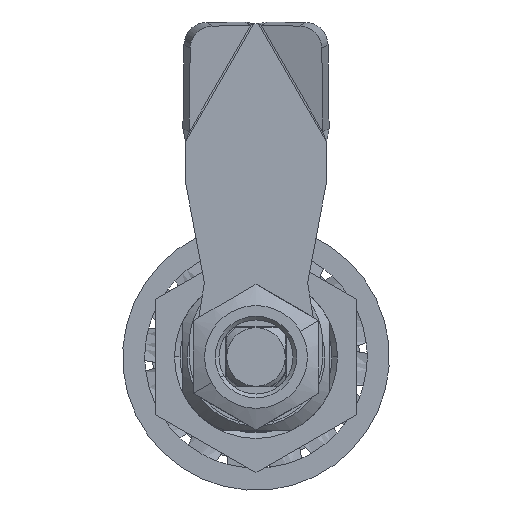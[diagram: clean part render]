
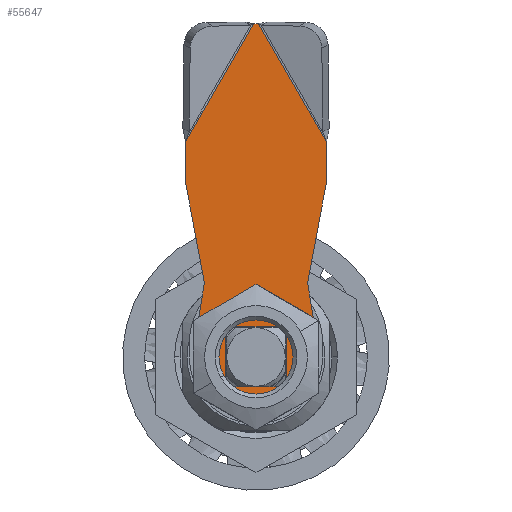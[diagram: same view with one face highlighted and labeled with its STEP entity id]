
A CAD part, front view. The second image highlights one B-rep face of the part: STEP entity #55647.
In plain terms, the highlighted planar face has unit normal (0, -1, 0) as drawn and (0, 0, -1) by its records, which use the part's own axes.
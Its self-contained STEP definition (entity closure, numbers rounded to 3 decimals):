
#5313 = EDGE_CURVE ( 'NONE', #292458, #117749, #148615, .T. ) ;
#7715 = EDGE_CURVE ( 'NONE', #102564, #195828, #163291, .T. ) ;
#8297 = LINE ( 'NONE', #150132, #167039 ) ;
#18385 = CARTESIAN_POINT ( 'NONE',  ( 45., 0.291, 0. ) ) ;
#19211 = CARTESIAN_POINT ( 'NONE',  ( 22.99, 12.999, 0. ) ) ;
#20437 = VERTEX_POINT ( 'NONE', #122958 ) ;
#21147 = EDGE_CURVE ( 'NONE', #117749, #398363, #261305, .T. ) ;
#21817 = DIRECTION ( 'NONE',  ( -1., 0., 0. ) ) ;
#28861 = AXIS2_PLACEMENT_3D ( 'NONE', #269544, #79880, #301355 ) ;
#29753 = CARTESIAN_POINT ( 'NONE',  ( 9.593, -7.033, 0. ) ) ;
#29771 = AXIS2_PLACEMENT_3D ( 'NONE', #156635, #211660, #21817 ) ;
#36788 = CARTESIAN_POINT ( 'NONE',  ( 10.463, 7.043, 0. ) ) ;
#37808 = ORIENTED_EDGE ( 'NONE', *, *, #257119, .F. ) ;
#38378 = VECTOR ( 'NONE', #397734, 1000. ) ;
#40209 = AXIS2_PLACEMENT_3D ( 'NONE', #285893, #96301, #317693 ) ;
#44217 = ORIENTED_EDGE ( 'NONE', *, *, #368554, .F. ) ;
#49499 = EDGE_CURVE ( 'NONE', #206557, #291702, #53537, .T. ) ;
#53537 = LINE ( 'NONE', #323575, #296197 ) ;
#55647 = ADVANCED_FACE ( 'NONE', ( #231497, #315705 ), #252041, .T. ) ;
#56942 = DIRECTION ( 'NONE',  ( 1., 0., 0. ) ) ;
#61218 = EDGE_CURVE ( 'NONE', #83510, #340565, #305432, .T. ) ;
#63052 = ORIENTED_EDGE ( 'NONE', *, *, #201379, .F. ) ;
#65534 = CIRCLE ( 'NONE', #40209, 2.5 ) ;
#71872 = ORIENTED_EDGE ( 'NONE', *, *, #105390, .F. ) ;
#74138 = VECTOR ( 'NONE', #221922, 1000. ) ;
#77202 = ORIENTED_EDGE ( 'NONE', *, *, #49499, .F. ) ;
#79606 = CARTESIAN_POINT ( 'NONE',  ( -4.05, -4.05, 0. ) ) ;
#79880 = DIRECTION ( 'NONE',  ( 0., 0., 1. ) ) ;
#83510 = VERTEX_POINT ( 'NONE', #401631 ) ;
#87373 = CARTESIAN_POINT ( 'NONE',  ( -4.05, 4.05, 0. ) ) ;
#94604 = CARTESIAN_POINT ( 'NONE',  ( 4.05, -4.05, 0. ) ) ;
#96301 = DIRECTION ( 'NONE',  ( 0., 0., -1. ) ) ;
#98267 = EDGE_CURVE ( 'NONE', #391789, #292458, #328454, .T. ) ;
#100601 = CARTESIAN_POINT ( 'NONE',  ( 9.593, 7.033, 0. ) ) ;
#102564 = VERTEX_POINT ( 'NONE', #153118 ) ;
#104228 = ORIENTED_EDGE ( 'NONE', *, *, #5313, .F. ) ;
#104402 = DIRECTION ( 'NONE',  ( 0., -1., 0. ) ) ;
#105390 = EDGE_CURVE ( 'NONE', #118653, #150298, #65534, .T. ) ;
#107353 = CARTESIAN_POINT ( 'NONE',  ( 10., -9.5, 0. ) ) ;
#113286 = EDGE_CURVE ( 'NONE', #291702, #118653, #278186, .T. ) ;
#114119 = DIRECTION ( 'NONE',  ( 1., 0., 0. ) ) ;
#117749 = VERTEX_POINT ( 'NONE', #157635 ) ;
#118653 = VERTEX_POINT ( 'NONE', #36788 ) ;
#118806 = EDGE_CURVE ( 'NONE', #150298, #218380, #307528, .T. ) ;
#122958 = CARTESIAN_POINT ( 'NONE',  ( 10.463, -7.043, 0. ) ) ;
#127115 = DIRECTION ( 'NONE',  ( -0.866, -0.5, 0. ) ) ;
#137930 = ORIENTED_EDGE ( 'NONE', *, *, #61218, .F. ) ;
#139169 = VECTOR ( 'NONE', #394041, 1000. ) ;
#139234 = DIRECTION ( 'NONE',  ( -1., 0., 0. ) ) ;
#142042 = VERTEX_POINT ( 'NONE', #240825 ) ;
#142411 = EDGE_CURVE ( 'NONE', #210416, #206557, #396936, .T. ) ;
#146233 = DIRECTION ( 'NONE',  ( 0., 1., 0. ) ) ;
#148615 = LINE ( 'NONE', #94604, #74138 ) ;
#150132 = CARTESIAN_POINT ( 'NONE',  ( -4.05, 4.05, 0. ) ) ;
#150298 = VERTEX_POINT ( 'NONE', #377332 ) ;
#153118 = CARTESIAN_POINT ( 'NONE',  ( 45., -0.291, 0. ) ) ;
#156635 = CARTESIAN_POINT ( 'NONE',  ( 10., -9.5, 0. ) ) ;
#157635 = CARTESIAN_POINT ( 'NONE',  ( -4.05, -4.05, 0. ) ) ;
#160690 = ORIENTED_EDGE ( 'NONE', *, *, #224815, .F. ) ;
#162922 = CARTESIAN_POINT ( 'NONE',  ( 10.463, 7.043, 0. ) ) ;
#163291 = LINE ( 'NONE', #282181, #405658 ) ;
#163508 = VERTEX_POINT ( 'NONE', #319537 ) ;
#167039 = VECTOR ( 'NONE', #114119, 1000. ) ;
#179337 = CARTESIAN_POINT ( 'NONE',  ( 4.05, 4.05, 0. ) ) ;
#179627 = DIRECTION ( 'NONE',  ( 0.983, -0.185, 0. ) ) ;
#186935 = CARTESIAN_POINT ( 'NONE',  ( 0., 0., 0. ) ) ;
#195828 = VERTEX_POINT ( 'NONE', #279796 ) ;
#200481 = EDGE_LOOP ( 'NONE', ( #44217, #327273, #318453, #37808, #242301, #63052, #137930, #160690, #267224, #71872, #229773, #77202, #226717 ) ) ;
#201054 = LINE ( 'NONE', #368939, #295072 ) ;
#201379 = EDGE_CURVE ( 'NONE', #340565, #142042, #235625, .T. ) ;
#203993 = CARTESIAN_POINT ( 'NONE',  ( 4.05, -4.05, 0. ) ) ;
#206557 = VERTEX_POINT ( 'NONE', #382734 ) ;
#210416 = VERTEX_POINT ( 'NONE', #18385 ) ;
#211660 = DIRECTION ( 'NONE',  ( 0., 0., -1. ) ) ;
#218380 = VERTEX_POINT ( 'NONE', #270263 ) ;
#218691 = DIRECTION ( 'NONE',  ( 1., 0., 0. ) ) ;
#219550 = DIRECTION ( 'NONE',  ( 0.987, 0.163, 0. ) ) ;
#219874 = VECTOR ( 'NONE', #56942, 1000. ) ;
#221922 = DIRECTION ( 'NONE',  ( -1., 0., 0. ) ) ;
#224815 = EDGE_CURVE ( 'NONE', #218380, #83510, #292311, .T. ) ;
#226578 = ORIENTED_EDGE ( 'NONE', *, *, #98267, .F. ) ;
#226717 = ORIENTED_EDGE ( 'NONE', *, *, #142411, .F. ) ;
#229773 = ORIENTED_EDGE ( 'NONE', *, *, #113286, .F. ) ;
#230345 = CARTESIAN_POINT ( 'NONE',  ( 4.05, 4.05, 0. ) ) ;
#231497 = FACE_BOUND ( 'NONE', #312381, .T. ) ;
#235625 = LINE ( 'NONE', #29753, #393883 ) ;
#239666 = LINE ( 'NONE', #277118, #219874 ) ;
#240825 = CARTESIAN_POINT ( 'NONE',  ( 9.593, -7.033, 0. ) ) ;
#242301 = ORIENTED_EDGE ( 'NONE', *, *, #286199, .F. ) ;
#252041 = PLANE ( 'NONE',  #29771 ) ;
#257119 = EDGE_CURVE ( 'NONE', #20437, #163508, #201054, .T. ) ;
#258280 = ORIENTED_EDGE ( 'NONE', *, *, #21147, .F. ) ;
#261305 = LINE ( 'NONE', #79606, #38378 ) ;
#262816 = LINE ( 'NONE', #303942, #346935 ) ;
#267224 = ORIENTED_EDGE ( 'NONE', *, *, #118806, .F. ) ;
#269544 = CARTESIAN_POINT ( 'NONE',  ( 0., 0., 0. ) ) ;
#270263 = CARTESIAN_POINT ( 'NONE',  ( 1.383, 8.387, 0. ) ) ;
#277118 = CARTESIAN_POINT ( 'NONE',  ( 42., -9.5, 0. ) ) ;
#278186 = LINE ( 'NONE', #162922, #342437 ) ;
#279796 = CARTESIAN_POINT ( 'NONE',  ( 29.05, -9.5, 0. ) ) ;
#282181 = CARTESIAN_POINT ( 'NONE',  ( 14.762, -17.749, 0. ) ) ;
#285893 = CARTESIAN_POINT ( 'NONE',  ( 10., 9.5, 0. ) ) ;
#286199 = EDGE_CURVE ( 'NONE', #142042, #20437, #372492, .T. ) ;
#288669 = CARTESIAN_POINT ( 'NONE',  ( 1.383, -8.387, 0. ) ) ;
#291702 = VERTEX_POINT ( 'NONE', #324397 ) ;
#292311 = CIRCLE ( 'NONE', #28861, 8.5 ) ;
#292458 = VERTEX_POINT ( 'NONE', #203993 ) ;
#295072 = VECTOR ( 'NONE', #179627, 1000. ) ;
#296197 = VECTOR ( 'NONE', #355350, 1000. ) ;
#301355 = DIRECTION ( 'NONE',  ( 1., 0., 0. ) ) ;
#303942 = CARTESIAN_POINT ( 'NONE',  ( 45., 6.5, 0. ) ) ;
#305432 = CIRCLE ( 'NONE', #361365, 8.5 ) ;
#307528 = LINE ( 'NONE', #100601, #139169 ) ;
#308718 = VECTOR ( 'NONE', #104402, 1000. ) ;
#312381 = EDGE_LOOP ( 'NONE', ( #104228, #226578, #382970, #258280 ) ) ;
#312993 = VECTOR ( 'NONE', #317573, 1000. ) ;
#315705 = FACE_OUTER_BOUND ( 'NONE', #200481, .T. ) ;
#317573 = DIRECTION ( 'NONE',  ( -0.866, 0.5, 0. ) ) ;
#317693 = DIRECTION ( 'NONE',  ( 1., 0., 0. ) ) ;
#318453 = ORIENTED_EDGE ( 'NONE', *, *, #334052, .F. ) ;
#319537 = CARTESIAN_POINT ( 'NONE',  ( 23.5, -9.5, 0. ) ) ;
#323575 = CARTESIAN_POINT ( 'NONE',  ( 42., 9.5, 0. ) ) ;
#324397 = CARTESIAN_POINT ( 'NONE',  ( 23.5, 9.5, 0. ) ) ;
#327273 = ORIENTED_EDGE ( 'NONE', *, *, #7715, .T. ) ;
#328454 = LINE ( 'NONE', #230345, #308718 ) ;
#328728 = DIRECTION ( 'NONE',  ( 0., 0., -1. ) ) ;
#334052 = EDGE_CURVE ( 'NONE', #163508, #195828, #239666, .T. ) ;
#340565 = VERTEX_POINT ( 'NONE', #288669 ) ;
#342437 = VECTOR ( 'NONE', #353677, 1000. ) ;
#346935 = VECTOR ( 'NONE', #146233, 1000. ) ;
#353677 = DIRECTION ( 'NONE',  ( -0.983, -0.185, 0. ) ) ;
#355350 = DIRECTION ( 'NONE',  ( -1., 0., 0. ) ) ;
#361365 = AXIS2_PLACEMENT_3D ( 'NONE', #186935, #408014, #218691 ) ;
#365180 = AXIS2_PLACEMENT_3D ( 'NONE', #107353, #328728, #139234 ) ;
#368554 = EDGE_CURVE ( 'NONE', #102564, #210416, #262816, .T. ) ;
#368939 = CARTESIAN_POINT ( 'NONE',  ( 10.463, -7.043, 0. ) ) ;
#372492 = CIRCLE ( 'NONE', #365180, 2.5 ) ;
#377332 = CARTESIAN_POINT ( 'NONE',  ( 9.593, 7.033, 0. ) ) ;
#382734 = CARTESIAN_POINT ( 'NONE',  ( 29.05, 9.5, 0. ) ) ;
#382970 = ORIENTED_EDGE ( 'NONE', *, *, #403043, .F. ) ;
#391789 = VERTEX_POINT ( 'NONE', #179337 ) ;
#393883 = VECTOR ( 'NONE', #219550, 1000. ) ;
#394041 = DIRECTION ( 'NONE',  ( -0.987, 0.163, 0. ) ) ;
#396936 = LINE ( 'NONE', #19211, #312993 ) ;
#397734 = DIRECTION ( 'NONE',  ( 0., 1., 0. ) ) ;
#398363 = VERTEX_POINT ( 'NONE', #87373 ) ;
#401631 = CARTESIAN_POINT ( 'NONE',  ( -8.5, 0., 0. ) ) ;
#403043 = EDGE_CURVE ( 'NONE', #398363, #391789, #8297, .T. ) ;
#405658 = VECTOR ( 'NONE', #127115, 1000. ) ;
#408014 = DIRECTION ( 'NONE',  ( 0., 0., 1. ) ) ;
